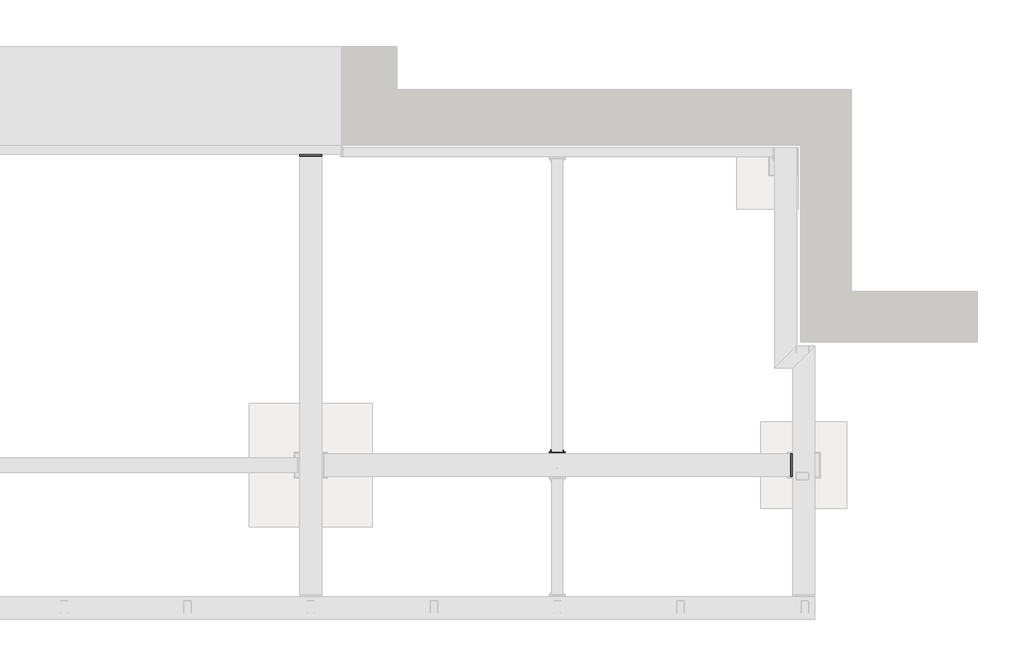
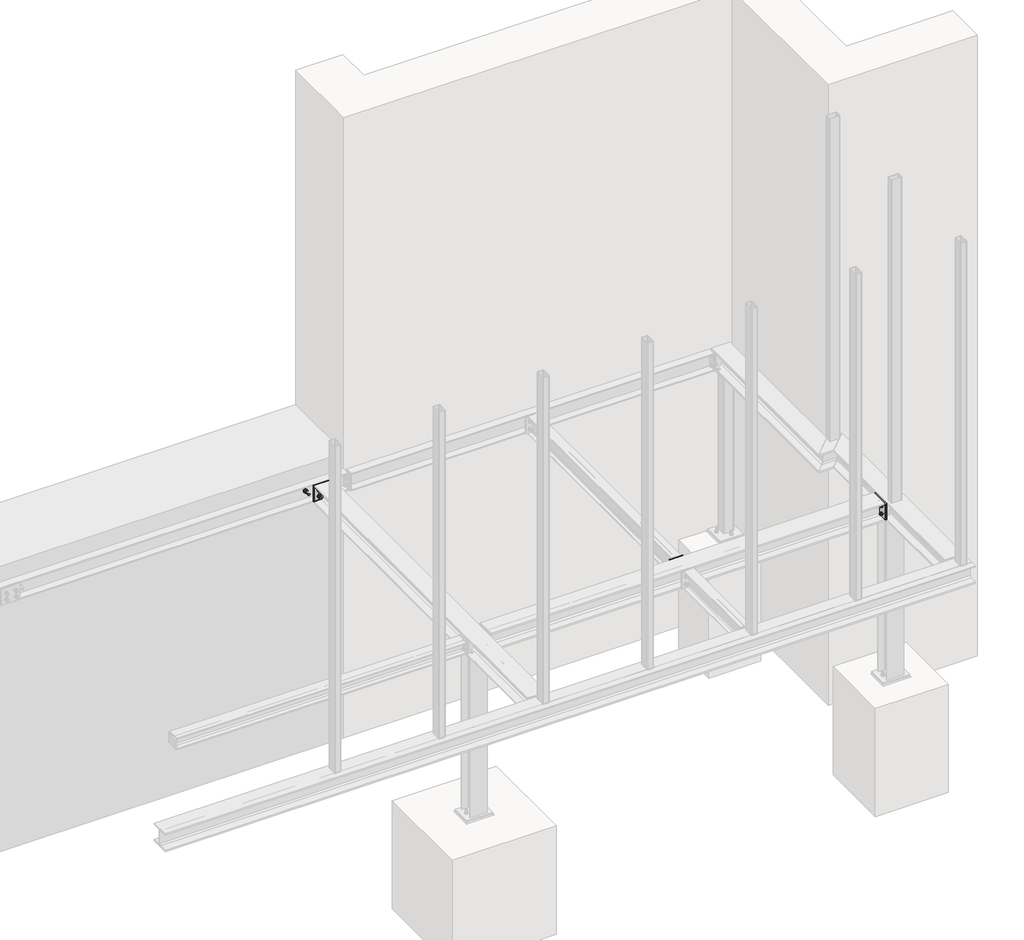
# One storey, part 14 of 31: 10 proxies.
"""IFC4 building model written with IfcOpenShell, lengths in millimetres."""

import ifcopenshell
import ifcopenshell.guid

model = None  # the IFC model being written
_history = None  # IfcOwnerHistory: only IFC2X3 demands one
_inside = {}  # id of a spatial element -> (the spatial element, [elements in it])
_under = {}  # id of a project, library or spatial element -> (it, [spatial elements below it])
_declared = {}  # id of a project -> (the project, [libraries it declares])
_typed = {}  # id of a type object -> (the type object, [elements of that type])
_made_of = {}  # id of a material, layer set ... -> (it, [elements and type objects made of it])


def new_model(schema):
    """Start an empty IFC model of exactly this schema.

    Asked for "IFC4X3", IfcOpenShell would pick the latest addendum, in which some entities
    have other attributes; the version numbers below select the first issue.
    IFC2X3 requires an IfcOwnerHistory on every rooted entity: one is made here for all.
    """
    global model, _history
    if schema == "IFC4X3":
        model = ifcopenshell.file(schema_version=(4, 3, 0, 0))
    else:
        model = ifcopenshell.file(schema=schema)
    _inside.clear()
    _under.clear()
    _declared.clear()
    _typed.clear()
    _made_of.clear()
    _history = None
    if model.schema == "IFC2X3":
        org = make("IfcOrganization", Name="unknown")
        user = make(
            "IfcPersonAndOrganization",
            ThePerson=make("IfcPerson", FamilyName="unknown"),
            TheOrganization=org,
        )
        app = make(
            "IfcApplication",
            ApplicationDeveloper=org,
            Version="unknown",
            ApplicationFullName="unknown",
            ApplicationIdentifier="unknown",
        )
        _history = make(
            "IfcOwnerHistory",
            OwningUser=user,
            OwningApplication=app,
            ChangeAction="ADDED",
            CreationDate=0,
        )
    return model


def make(cls, **values):
    """One entity of the class cls with the attributes given. An attribute that is None is left unset."""
    return model.create_entity(
        cls, **{name: value for name, value in values.items() if value is not None}
    )


def rooted(cls, **values):
    """An entity with a GlobalId (a new one), such as an element, a storey or a relation."""
    return make(cls, GlobalId=ifcopenshell.guid.new(), OwnerHistory=_history, **values)


def si_unit(unit_type, name, prefix=None):
    """IfcSIUnit, for example si_unit("LENGTHUNIT", "METRE", prefix="MILLI")."""
    return make("IfcSIUnit", UnitType=unit_type, Prefix=prefix, Name=name)


def assignment(units):
    """IfcUnitAssignment: the units of a project."""
    return None if units is None else make("IfcUnitAssignment", Units=units)


def point(xyz):
    """IfcCartesianPoint."""
    return None if xyz is None else make("IfcCartesianPoint", Coordinates=xyz)


def direction(xyz):
    """IfcDirection."""
    return None if xyz is None else make("IfcDirection", DirectionRatios=xyz)


def frame(location, z_axis=None, x_axis=None):
    """IfcAxis2Placement3D, a coordinate frame: its origin and axes. An axis left out is left unset."""
    return make(
        "IfcAxis2Placement3D",
        Location=point(location),
        Axis=direction(z_axis),
        RefDirection=direction(x_axis),
    )


def frame_2d(location, x_axis=None):
    """IfcAxis2Placement2D, a coordinate frame in the plane: its origin and x axis."""
    return make(
        "IfcAxis2Placement2D", Location=point(location), RefDirection=direction(x_axis)
    )


def origin():
    """The frame at (0, 0, 0) with its axes left unset."""
    return frame((0.0, 0.0, 0.0))


def place(relative_to, where):
    """IfcLocalPlacement: puts the frame where relative to a parent placement (None: the world)."""
    return make(
        "IfcLocalPlacement", PlacementRelTo=relative_to, RelativePlacement=where
    )


def context(
    kind, dimensions, precision=None, world=None, true_north=None, identifier=None
):
    """IfcGeometricRepresentationContext, for example the 3D "Model" context."""
    return make(
        "IfcGeometricRepresentationContext",
        ContextIdentifier=identifier,
        ContextType=kind,
        CoordinateSpaceDimension=dimensions,
        Precision=precision,
        WorldCoordinateSystem=world,
        TrueNorth=true_north,
    )


def project(units=None, contexts=None):
    """IfcProject with its units and contexts."""
    return rooted(
        "IfcProject",
        Name="project",
        RepresentationContexts=contexts,
        UnitsInContext=assignment(units),
    )


def spatial(cls, under=None, at=None, **own):
    """A site, building, storey or space (cls), placed at a placement, below another one or the project."""
    s = rooted(cls, ObjectPlacement=at, **own)
    if under is not None:
        _under.setdefault(under.id(), (under, []))[1].append(s)
    return s


def polyline(points):
    """IfcPolyline through the points."""
    return make("IfcPolyline", Points=[point(p) for p in points])


def circle_curve(where, radius):
    """IfcCircle in the frame where."""
    return make("IfcCircle", Position=where, Radius=radius)


def trimmed(basis, trim1, trim2, sense, master):
    """IfcTrimmedCurve: the piece of a basis curve between two trims."""
    return make(
        "IfcTrimmedCurve",
        BasisCurve=basis,
        Trim1=trim1,
        Trim2=trim2,
        SenseAgreement=sense,
        MasterRepresentation=master,
    )


def segment(curve, same_sense, transition):
    """IfcCompositeCurveSegment."""
    return make(
        "IfcCompositeCurveSegment",
        Transition=transition,
        SameSense=same_sense,
        ParentCurve=curve,
    )


def composite_curve(segments, self_intersect=None):
    """IfcCompositeCurve: segments joined end to end."""
    return make("IfcCompositeCurve", Segments=segments, SelfIntersect=self_intersect)


def outline(outer, holes=None, kind="AREA"):
    """IfcArbitraryClosedProfileDef: a profile drawn as a closed curve; with holes, ...WithVoids."""
    if holes is None:
        return make("IfcArbitraryClosedProfileDef", ProfileType=kind, OuterCurve=outer)
    return make(
        "IfcArbitraryProfileDefWithVoids",
        ProfileType=kind,
        OuterCurve=outer,
        InnerCurves=holes,
    )


def extrude(swept, where, along, depth):
    """IfcExtrudedAreaSolid: the profile swept, set in the frame where, extruded along a direction by depth."""
    return make(
        "IfcExtrudedAreaSolid",
        SweptArea=swept,
        Position=where,
        ExtrudedDirection=direction(along),
        Depth=depth,
    )


def shape(context_of_items, identifier, shape_type, items):
    """IfcShapeRepresentation: the items that make up one representation, for example the "Body"."""
    return make(
        "IfcShapeRepresentation",
        ContextOfItems=context_of_items,
        RepresentationIdentifier=identifier,
        RepresentationType=shape_type,
        Items=items,
    )


def made_of(thing, what):
    """Note that an element or type object is made of a material, layer set ...; save() writes the relation."""
    if what is not None:
        _made_of.setdefault(what.id(), (what, []))[1].append(thing)
    return thing


def element(
    cls,
    number,
    at=None,
    inside=None,
    cuts=None,
    type_object=None,
    material=None,
    context=None,
    identifier="Body",
    shape_type=None,
    held_by="IfcProductDefinitionShape",
    body=None,
    shapes=None,
    **own,
):
    """One element of the class cls, such as IfcWall. Its Tag is "e" and its number.

    at: its placement. inside: the storey or other place that contains it. cuts: it is an
    opening in that element (IfcRelVoidsElement). A single representation is given by context,
    identifier, shape_type and body (its items); several are given by shapes. held_by: the class
    of the entity that holds the representations. save() writes the other relations.
    """
    e = rooted(cls, Tag="e%d" % number, ObjectPlacement=at, **own)
    if body is not None:
        shapes = [shape(context, identifier, shape_type, body)]
    if shapes is not None:
        e.Representation = make(held_by, Representations=shapes)
    if inside is not None:
        _inside.setdefault(inside.id(), (inside, []))[1].append(e)
    if cuts is not None:
        rooted(
            "IfcRelVoidsElement", RelatingBuildingElement=cuts, RelatedOpeningElement=e
        )
    if type_object is not None:
        _typed.setdefault(type_object.id(), (type_object, []))[1].append(e)
    return made_of(e, material)


def aggregate(whole, parts):
    """IfcRelAggregates: a whole, such as a stair, and the parts it consists of."""
    return rooted("IfcRelAggregates", RelatingObject=whole, RelatedObjects=parts)


def save(model, path):
    """Write the relations noted so far, then the file.

    IfcRelAggregates (storeys below a building ...), IfcRelContainedInSpatialStructure (elements
    in a storey), IfcRelDefinesByType, IfcRelAssociatesMaterial and IfcRelDeclares: one each for
    every whole, place, type object, material and project.
    """
    for whole, parts in _under.values():
        aggregate(whole, parts)
    for where, things in _inside.values():
        rooted(
            "IfcRelContainedInSpatialStructure",
            RelatedElements=things,
            RelatingStructure=where,
        )
    for kind, things in _typed.values():
        rooted("IfcRelDefinesByType", RelatedObjects=things, RelatingType=kind)
    for what, things in _made_of.values():
        rooted("IfcRelAssociatesMaterial", RelatedObjects=things, RelatingMaterial=what)
    for by, libraries in _declared.values():
        rooted("IfcRelDeclares", RelatingContext=by, RelatedDefinitions=libraries)
    model.write(path)


model = new_model("IFC4")

# Units and contexts
model_context = context("Model", 3, world=origin())
ifc_project = project(units=[si_unit("LENGTHUNIT", "METRE", prefix="MILLI")], contexts=[model_context])

# Site, building, storey
site = spatial("IfcSite", under=ifc_project)
building = spatial("IfcBuilding", under=site)
storey = spatial("IfcBuildingStorey", under=building, Name="Základy", Elevation=-1200.0)

# Proxies
placement = place(None, origin())
element("IfcBuildingElementProxy", 1, Name="PLECH", ObjectType="PLECH", at=placement, inside=storey, context=model_context, shape_type="SweptSolid", body=[
    extrude(outline(polyline([(11960.0, 3775.0), (12140.0, 3775.0), (12140.0, 3767.0), (11960.0, 3767.0), (11960.0, 3775.0)])), frame((0.0, 0.0, -316.0), z_axis=(0.0, 0.0, 1.0), x_axis=(1.0, 0.0, 0.0)), (0.0, 0.0, 1.0), 132.0),
])
element("IfcBuildingElementProxy", 2, Name="PLECH", ObjectType="PLECH", at=placement, inside=storey, context=model_context, shape_type="SweptSolid", body=[
    extrude(outline(composite_curve([segment(polyline([(3785.0, -170.5), (3834.5, -170.5)]), True, "CONTINUOUS"), segment(trimmed(circle_curve(frame_2d((3854.5, -170.5)), 20.0), [point((3834.5, -170.5))], [point((3854.5, -190.5))], True, "CARTESIAN"), True, "CONTINUOUS"), segment(polyline([(3854.5, -190.5), (3854.5, -309.5)]), True, "CONTINUOUS"), segment(trimmed(circle_curve(frame_2d((3854.5, -329.5)), 20.0), [point((3854.5, -309.5))], [point((3834.5, -329.5))], True, "CARTESIAN"), True, "CONTINUOUS"), segment(polyline([(3834.5, -329.5), (3785.0, -329.5), (3785.0, -170.5)]), True, "CONTINUOUS")], self_intersect=False)), frame((12046.0, 0.0, 0.0), z_axis=(1.0, 0.0, 0.0), x_axis=(0.0, 1.0, 0.0)), (0.0, 0.0, 1.0), 8.0),
])
element("IfcBuildingElementProxy", 3, Name="PLECH", ObjectType="PLECH", at=placement, inside=storey, context=model_context, shape_type="SweptSolid", body=[
    extrude(outline(polyline([(11960.0, 3785.0), (12140.0, 3785.0), (12140.0, 3775.0), (11960.0, 3775.0), (11960.0, 3785.0)])), frame((0.0, 0.0, -332.0), z_axis=(0.0, 0.0, 1.0), x_axis=(1.0, 0.0, 0.0)), (0.0, 0.0, 1.0), 164.0),
])
element("IfcBuildingElementProxy", 4, Name="PLECH", ObjectType="PLECH", at=placement, inside=storey, context=model_context, shape_type="SweptSolid", body=[
    extrude(outline(polyline([(15950.0, 1170.0), (15950.0, 1350.0), (15960.0, 1350.0), (15960.0, 1170.0), (15950.0, 1170.0)])), frame((0.0, 0.0, -332.0), z_axis=(0.0, 0.0, 1.0), x_axis=(1.0, 0.0, 0.0)), (0.0, 0.0, 1.0), 164.0),
])
element("IfcBuildingElementProxy", 5, Name="PLECH", ObjectType="PLECH", at=placement, inside=storey, context=model_context, shape_type="SweptSolid", body=[
    extrude(outline(polyline([(15940.0, 1170.0), (15940.0, 1350.0), (15950.0, 1350.0), (15950.0, 1170.0), (15940.0, 1170.0)])), frame((0.0, 0.0, -326.0), z_axis=(0.0, 0.0, 1.0), x_axis=(1.0, 0.0, 0.0)), (0.0, 0.0, 1.0), 152.0),
])
element("IfcBuildingElementProxy", 6, Name="PLECH", ObjectType="PLECH", at=placement, inside=storey, context=model_context, shape_type="SweptSolid", body=[
    extrude(outline(polyline([(13985.0, 1370.0), (14115.0, 1370.0), (14115.0, 1360.0), (13985.0, 1360.0), (13985.0, 1370.0)])), frame((0.0, 0.0, -332.0), z_axis=(0.0, 0.0, 1.0), x_axis=(1.0, 0.0, 0.0)), (0.0, 0.0, 1.0), 164.0),
])
element("IfcBuildingElementProxy", 7, Name="Bolt assembly", ObjectType="Bolt assembly", at=placement, inside=storey, context=model_context, shape_type="SweptSolid", body=[
    extrude(outline(composite_curve([segment(trimmed(circle_curve(frame_2d((-220.0, 12005.0)), 9.0), [point((-220.0, 12014.0))], [point((-220.0, 11996.0))], False, "CARTESIAN"), True, "CONTINUOUS"), segment(trimmed(circle_curve(frame_2d((-220.0, 12005.0)), 9.0), [point((-220.0, 11996.0))], [point((-220.0, 12014.0))], False, "CARTESIAN"), True, "CONTINUOUS")], self_intersect=False)), frame((0.0, 3774.9, 0.0), z_axis=(0.0, 1.0, 0.0), x_axis=(0.0, 0.0, 1.0)), (0.0, 0.0, 1.0), 10.0),
    extrude(outline(polyline([(-220.0, 12018.8564065), (-208.0, 12011.9282032), (-208.0, 11998.0717968), (-220.0, 11991.1435935), (-232.0, 11998.0717968), (-232.0, 12011.9282032), (-220.0, 12018.8564065)])), frame((0.0, 3788.0, 0.0), z_axis=(0.0, 1.0, 0.0), x_axis=(0.0, 0.0, 1.0)), (0.0, 0.0, 1.0), 10.0),
    extrude(outline(composite_curve([segment(trimmed(circle_curve(frame_2d((-220.0, 12005.0)), 8.0), [point((-220.0, 12013.0))], [point((-220.0, 11997.0))], False, "CARTESIAN"), True, "CONTINUOUS"), segment(trimmed(circle_curve(frame_2d((-220.0, 12005.0)), 8.0), [point((-220.0, 11997.0))], [point((-220.0, 12013.0))], False, "CARTESIAN"), True, "CONTINUOUS")], self_intersect=False)), frame((0.0, 3738.0, 0.0), z_axis=(0.0, 1.0, 0.0), x_axis=(0.0, 0.0, 1.0)), (0.0, 0.0, 1.0), 50.0),
    extrude(outline(composite_curve([segment(trimmed(circle_curve(frame_2d((-220.0, 12005.0)), 15.0), [point((-220.0, 12020.0))], [point((-220.0, 11990.0))], False, "CARTESIAN"), True, "CONTINUOUS"), segment(trimmed(circle_curve(frame_2d((-220.0, 12005.0)), 15.0), [point((-220.0, 11990.0))], [point((-220.0, 12020.0))], False, "CARTESIAN"), True, "CONTINUOUS")], self_intersect=False)), frame((0.0, 3785.0, 0.0), z_axis=(0.0, 1.0, 0.0), x_axis=(0.0, 0.0, 1.0)), (0.0, 0.0, 1.0), 3.0),
    extrude(outline(composite_curve([segment(trimmed(circle_curve(frame_2d((-220.0, 12005.0)), 15.0), [point((-220.0, 12020.0))], [point((-220.0, 11990.0))], False, "CARTESIAN"), True, "CONTINUOUS"), segment(trimmed(circle_curve(frame_2d((-220.0, 12005.0)), 15.0), [point((-220.0, 11990.0))], [point((-220.0, 12020.0))], False, "CARTESIAN"), True, "CONTINUOUS")], self_intersect=False)), frame((0.0, 3764.0, 0.0), z_axis=(0.0, 1.0, 0.0), x_axis=(0.0, 0.0, 1.0)), (0.0, 0.0, 1.0), 3.0),
    extrude(outline(polyline([(-220.0, 12020.4441197), (-206.625, 12012.7220599), (-206.625, 11997.2779401), (-220.0, 11989.5558803), (-233.375, 11997.2779401), (-233.375, 12012.7220599), (-220.0, 12020.4441197)])), frame((0.0, 3751.0, 0.0), z_axis=(0.0, 1.0, 0.0), x_axis=(0.0, 0.0, 1.0)), (0.0, 0.0, 1.0), 13.0),
    extrude(outline(composite_curve([segment(trimmed(circle_curve(frame_2d((-220.0, 12005.0)), 9.0), [point((-220.0, 12014.0))], [point((-220.0, 11996.0))], False, "CARTESIAN"), True, "CONTINUOUS"), segment(trimmed(circle_curve(frame_2d((-220.0, 12005.0)), 9.0), [point((-220.0, 11996.0))], [point((-220.0, 12014.0))], False, "CARTESIAN"), True, "CONTINUOUS")], self_intersect=False)), frame((0.0, 3767.0, 0.0), z_axis=(0.0, 1.0, 0.0), x_axis=(0.0, 0.0, 1.0)), (0.0, 0.0, 1.0), 8.1),
    extrude(outline(composite_curve([segment(trimmed(circle_curve(frame_2d((-220.0, 12095.0)), 9.0), [point((-220.0, 12104.0))], [point((-220.0, 12086.0))], False, "CARTESIAN"), True, "CONTINUOUS"), segment(trimmed(circle_curve(frame_2d((-220.0, 12095.0)), 9.0), [point((-220.0, 12086.0))], [point((-220.0, 12104.0))], False, "CARTESIAN"), True, "CONTINUOUS")], self_intersect=False)), frame((0.0, 3774.9, 0.0), z_axis=(0.0, 1.0, 0.0), x_axis=(0.0, 0.0, 1.0)), (0.0, 0.0, 1.0), 10.0),
    extrude(outline(polyline([(-220.0, 12108.8564065), (-208.0, 12101.9282032), (-208.0, 12088.0717968), (-220.0, 12081.1435935), (-232.0, 12088.0717968), (-232.0, 12101.9282032), (-220.0, 12108.8564065)])), frame((0.0, 3788.0, 0.0), z_axis=(0.0, 1.0, 0.0), x_axis=(0.0, 0.0, 1.0)), (0.0, 0.0, 1.0), 10.0),
    extrude(outline(composite_curve([segment(trimmed(circle_curve(frame_2d((-220.0, 12095.0)), 8.0), [point((-220.0, 12103.0))], [point((-220.0, 12087.0))], False, "CARTESIAN"), True, "CONTINUOUS"), segment(trimmed(circle_curve(frame_2d((-220.0, 12095.0)), 8.0), [point((-220.0, 12087.0))], [point((-220.0, 12103.0))], False, "CARTESIAN"), True, "CONTINUOUS")], self_intersect=False)), frame((0.0, 3738.0, 0.0), z_axis=(0.0, 1.0, 0.0), x_axis=(0.0, 0.0, 1.0)), (0.0, 0.0, 1.0), 50.0),
    extrude(outline(composite_curve([segment(trimmed(circle_curve(frame_2d((-220.0, 12095.0)), 15.0), [point((-220.0, 12110.0))], [point((-220.0, 12080.0))], False, "CARTESIAN"), True, "CONTINUOUS"), segment(trimmed(circle_curve(frame_2d((-220.0, 12095.0)), 15.0), [point((-220.0, 12080.0))], [point((-220.0, 12110.0))], False, "CARTESIAN"), True, "CONTINUOUS")], self_intersect=False)), frame((0.0, 3785.0, 0.0), z_axis=(0.0, 1.0, 0.0), x_axis=(0.0, 0.0, 1.0)), (0.0, 0.0, 1.0), 3.0),
    extrude(outline(composite_curve([segment(trimmed(circle_curve(frame_2d((-220.0, 12095.0)), 15.0), [point((-220.0, 12110.0))], [point((-220.0, 12080.0))], False, "CARTESIAN"), True, "CONTINUOUS"), segment(trimmed(circle_curve(frame_2d((-220.0, 12095.0)), 15.0), [point((-220.0, 12080.0))], [point((-220.0, 12110.0))], False, "CARTESIAN"), True, "CONTINUOUS")], self_intersect=False)), frame((0.0, 3764.0, 0.0), z_axis=(0.0, 1.0, 0.0), x_axis=(0.0, 0.0, 1.0)), (0.0, 0.0, 1.0), 3.0),
    extrude(outline(polyline([(-220.0, 12110.4441197), (-206.625, 12102.7220599), (-206.625, 12087.2779401), (-220.0, 12079.5558803), (-233.375, 12087.2779401), (-233.375, 12102.7220599), (-220.0, 12110.4441197)])), frame((0.0, 3751.0, 0.0), z_axis=(0.0, 1.0, 0.0), x_axis=(0.0, 0.0, 1.0)), (0.0, 0.0, 1.0), 13.0),
    extrude(outline(composite_curve([segment(trimmed(circle_curve(frame_2d((-220.0, 12095.0)), 9.0), [point((-220.0, 12104.0))], [point((-220.0, 12086.0))], False, "CARTESIAN"), True, "CONTINUOUS"), segment(trimmed(circle_curve(frame_2d((-220.0, 12095.0)), 9.0), [point((-220.0, 12086.0))], [point((-220.0, 12104.0))], False, "CARTESIAN"), True, "CONTINUOUS")], self_intersect=False)), frame((0.0, 3767.0, 0.0), z_axis=(0.0, 1.0, 0.0), x_axis=(0.0, 0.0, 1.0)), (0.0, 0.0, 1.0), 8.1),
    extrude(outline(composite_curve([segment(trimmed(circle_curve(frame_2d((-280.0, 12005.0)), 9.0), [point((-280.0, 12014.0))], [point((-280.0, 11996.0))], False, "CARTESIAN"), True, "CONTINUOUS"), segment(trimmed(circle_curve(frame_2d((-280.0, 12005.0)), 9.0), [point((-280.0, 11996.0))], [point((-280.0, 12014.0))], False, "CARTESIAN"), True, "CONTINUOUS")], self_intersect=False)), frame((0.0, 3774.9, 0.0), z_axis=(0.0, 1.0, 0.0), x_axis=(0.0, 0.0, 1.0)), (0.0, 0.0, 1.0), 10.0),
    extrude(outline(polyline([(-280.0, 12018.8564065), (-268.0, 12011.9282032), (-268.0, 11998.0717968), (-280.0, 11991.1435935), (-292.0, 11998.0717968), (-292.0, 12011.9282032), (-280.0, 12018.8564065)])), frame((0.0, 3788.0, 0.0), z_axis=(0.0, 1.0, 0.0), x_axis=(0.0, 0.0, 1.0)), (0.0, 0.0, 1.0), 10.0),
    extrude(outline(composite_curve([segment(trimmed(circle_curve(frame_2d((-280.0, 12005.0)), 8.0), [point((-280.0, 12013.0))], [point((-280.0, 11997.0))], False, "CARTESIAN"), True, "CONTINUOUS"), segment(trimmed(circle_curve(frame_2d((-280.0, 12005.0)), 8.0), [point((-280.0, 11997.0))], [point((-280.0, 12013.0))], False, "CARTESIAN"), True, "CONTINUOUS")], self_intersect=False)), frame((0.0, 3738.0, 0.0), z_axis=(0.0, 1.0, 0.0), x_axis=(0.0, 0.0, 1.0)), (0.0, 0.0, 1.0), 50.0),
    extrude(outline(composite_curve([segment(trimmed(circle_curve(frame_2d((-280.0, 12005.0)), 15.0), [point((-280.0, 12020.0))], [point((-280.0, 11990.0))], False, "CARTESIAN"), True, "CONTINUOUS"), segment(trimmed(circle_curve(frame_2d((-280.0, 12005.0)), 15.0), [point((-280.0, 11990.0))], [point((-280.0, 12020.0))], False, "CARTESIAN"), True, "CONTINUOUS")], self_intersect=False)), frame((0.0, 3785.0, 0.0), z_axis=(0.0, 1.0, 0.0), x_axis=(0.0, 0.0, 1.0)), (0.0, 0.0, 1.0), 3.0),
    extrude(outline(composite_curve([segment(trimmed(circle_curve(frame_2d((-280.0, 12005.0)), 15.0), [point((-280.0, 12020.0))], [point((-280.0, 11990.0))], False, "CARTESIAN"), True, "CONTINUOUS"), segment(trimmed(circle_curve(frame_2d((-280.0, 12005.0)), 15.0), [point((-280.0, 11990.0))], [point((-280.0, 12020.0))], False, "CARTESIAN"), True, "CONTINUOUS")], self_intersect=False)), frame((0.0, 3764.0, 0.0), z_axis=(0.0, 1.0, 0.0), x_axis=(0.0, 0.0, 1.0)), (0.0, 0.0, 1.0), 3.0),
    extrude(outline(polyline([(-280.0, 12020.4441197), (-266.625, 12012.7220599), (-266.625, 11997.2779401), (-280.0, 11989.5558803), (-293.375, 11997.2779401), (-293.375, 12012.7220599), (-280.0, 12020.4441197)])), frame((0.0, 3751.0, 0.0), z_axis=(0.0, 1.0, 0.0), x_axis=(0.0, 0.0, 1.0)), (0.0, 0.0, 1.0), 13.0),
    extrude(outline(composite_curve([segment(trimmed(circle_curve(frame_2d((-280.0, 12005.0)), 9.0), [point((-280.0, 12014.0))], [point((-280.0, 11996.0))], False, "CARTESIAN"), True, "CONTINUOUS"), segment(trimmed(circle_curve(frame_2d((-280.0, 12005.0)), 9.0), [point((-280.0, 11996.0))], [point((-280.0, 12014.0))], False, "CARTESIAN"), True, "CONTINUOUS")], self_intersect=False)), frame((0.0, 3767.0, 0.0), z_axis=(0.0, 1.0, 0.0), x_axis=(0.0, 0.0, 1.0)), (0.0, 0.0, 1.0), 8.1),
    extrude(outline(composite_curve([segment(trimmed(circle_curve(frame_2d((-280.0, 12095.0)), 9.0), [point((-280.0, 12104.0))], [point((-280.0, 12086.0))], False, "CARTESIAN"), True, "CONTINUOUS"), segment(trimmed(circle_curve(frame_2d((-280.0, 12095.0)), 9.0), [point((-280.0, 12086.0))], [point((-280.0, 12104.0))], False, "CARTESIAN"), True, "CONTINUOUS")], self_intersect=False)), frame((0.0, 3774.9, 0.0), z_axis=(0.0, 1.0, 0.0), x_axis=(0.0, 0.0, 1.0)), (0.0, 0.0, 1.0), 10.0),
    extrude(outline(polyline([(-280.0, 12108.8564065), (-268.0, 12101.9282032), (-268.0, 12088.0717968), (-280.0, 12081.1435935), (-292.0, 12088.0717968), (-292.0, 12101.9282032), (-280.0, 12108.8564065)])), frame((0.0, 3788.0, 0.0), z_axis=(0.0, 1.0, 0.0), x_axis=(0.0, 0.0, 1.0)), (0.0, 0.0, 1.0), 10.0),
    extrude(outline(composite_curve([segment(trimmed(circle_curve(frame_2d((-280.0, 12095.0)), 8.0), [point((-280.0, 12103.0))], [point((-280.0, 12087.0))], False, "CARTESIAN"), True, "CONTINUOUS"), segment(trimmed(circle_curve(frame_2d((-280.0, 12095.0)), 8.0), [point((-280.0, 12087.0))], [point((-280.0, 12103.0))], False, "CARTESIAN"), True, "CONTINUOUS")], self_intersect=False)), frame((0.0, 3738.0, 0.0), z_axis=(0.0, 1.0, 0.0), x_axis=(0.0, 0.0, 1.0)), (0.0, 0.0, 1.0), 50.0),
    extrude(outline(composite_curve([segment(trimmed(circle_curve(frame_2d((-280.0, 12095.0)), 15.0), [point((-280.0, 12110.0))], [point((-280.0, 12080.0))], False, "CARTESIAN"), True, "CONTINUOUS"), segment(trimmed(circle_curve(frame_2d((-280.0, 12095.0)), 15.0), [point((-280.0, 12080.0))], [point((-280.0, 12110.0))], False, "CARTESIAN"), True, "CONTINUOUS")], self_intersect=False)), frame((0.0, 3785.0, 0.0), z_axis=(0.0, 1.0, 0.0), x_axis=(0.0, 0.0, 1.0)), (0.0, 0.0, 1.0), 3.0),
    extrude(outline(composite_curve([segment(trimmed(circle_curve(frame_2d((-280.0, 12095.0)), 15.0), [point((-280.0, 12110.0))], [point((-280.0, 12080.0))], False, "CARTESIAN"), True, "CONTINUOUS"), segment(trimmed(circle_curve(frame_2d((-280.0, 12095.0)), 15.0), [point((-280.0, 12080.0))], [point((-280.0, 12110.0))], False, "CARTESIAN"), True, "CONTINUOUS")], self_intersect=False)), frame((0.0, 3764.0, 0.0), z_axis=(0.0, 1.0, 0.0), x_axis=(0.0, 0.0, 1.0)), (0.0, 0.0, 1.0), 3.0),
    extrude(outline(polyline([(-280.0, 12110.4441197), (-266.625, 12102.7220599), (-266.625, 12087.2779401), (-280.0, 12079.5558803), (-293.375, 12087.2779401), (-293.375, 12102.7220599), (-280.0, 12110.4441197)])), frame((0.0, 3751.0, 0.0), z_axis=(0.0, 1.0, 0.0), x_axis=(0.0, 0.0, 1.0)), (0.0, 0.0, 1.0), 13.0),
    extrude(outline(composite_curve([segment(trimmed(circle_curve(frame_2d((-280.0, 12095.0)), 9.0), [point((-280.0, 12104.0))], [point((-280.0, 12086.0))], False, "CARTESIAN"), True, "CONTINUOUS"), segment(trimmed(circle_curve(frame_2d((-280.0, 12095.0)), 9.0), [point((-280.0, 12086.0))], [point((-280.0, 12104.0))], False, "CARTESIAN"), True, "CONTINUOUS")], self_intersect=False)), frame((0.0, 3767.0, 0.0), z_axis=(0.0, 1.0, 0.0), x_axis=(0.0, 0.0, 1.0)), (0.0, 0.0, 1.0), 8.1),
])
element("IfcBuildingElementProxy", 8, Name="Bolt assembly", ObjectType="Bolt assembly", at=placement, inside=storey, context=model_context, shape_type="SweptSolid", body=[
    extrude(outline(polyline([(-250.0, 11934.8149546), (-241.5, 11929.9074773), (-241.5, 11920.0925227), (-250.0, 11915.1850454), (-258.5, 11920.0925227), (-258.5, 11929.9074773), (-250.0, 11934.8149546)])), frame((0.0, 3860.0, 0.0), z_axis=(0.0, 1.0, 0.0), x_axis=(0.0, 0.0, 1.0)), (0.0, 0.0, 1.0), 168.0),
    extrude(outline(composite_curve([segment(trimmed(circle_curve(frame_2d((-250.0, 11925.0)), 10.0), [point((-250.0, 11935.0))], [point((-250.0, 11915.0))], False, "CARTESIAN"), True, "CONTINUOUS"), segment(trimmed(circle_curve(frame_2d((-250.0, 11925.0)), 10.0), [point((-250.0, 11915.0))], [point((-250.0, 11935.0))], False, "CARTESIAN"), True, "CONTINUOUS")], self_intersect=False)), frame((0.0, 3788.0, 0.0), z_axis=(0.0, 1.0, 0.0), x_axis=(0.0, 0.0, 1.0)), (0.0, 0.0, 1.0), 72.0),
    extrude(outline(composite_curve([segment(trimmed(circle_curve(frame_2d((-250.0, 11925.0)), 18.5), [point((-250.0, 11943.5))], [point((-250.0, 11906.5))], False, "CARTESIAN"), True, "CONTINUOUS"), segment(trimmed(circle_curve(frame_2d((-250.0, 11925.0)), 18.5), [point((-250.0, 11906.5))], [point((-250.0, 11943.5))], False, "CARTESIAN"), True, "CONTINUOUS")], self_intersect=False)), frame((0.0, 3851.5, 0.0), z_axis=(0.0, 1.0, 0.0), x_axis=(0.0, 0.0, 1.0)), (0.0, 0.0, 1.0), 3.0),
    extrude(outline(polyline([(-250.0, 11942.3205081), (-235.0, 11933.660254), (-235.0, 11916.339746), (-250.0, 11907.6794919), (-265.0, 11916.339746), (-265.0, 11933.660254), (-250.0, 11942.3205081)])), frame((0.0, 3835.5, 0.0), z_axis=(0.0, 1.0, 0.0), x_axis=(0.0, 0.0, 1.0)), (0.0, 0.0, 1.0), 16.0),
    extrude(outline(composite_curve([segment(trimmed(circle_curve(frame_2d((-250.0, 11925.0)), 11.0), [point((-250.0, 11936.0))], [point((-250.0, 11914.0))], False, "CARTESIAN"), True, "CONTINUOUS"), segment(trimmed(circle_curve(frame_2d((-250.0, 11925.0)), 11.0), [point((-250.0, 11914.0))], [point((-250.0, 11936.0))], False, "CARTESIAN"), True, "CONTINUOUS")], self_intersect=False)), frame((0.0, 3854.4, 0.0), z_axis=(0.0, 1.0, 0.0), x_axis=(0.0, 0.0, 1.0)), (0.0, 0.0, 1.0), 5.6),
    extrude(outline(polyline([(-250.0, 12184.8149546), (-241.5, 12179.9074773), (-241.5, 12170.0925227), (-250.0, 12165.1850454), (-258.5, 12170.0925227), (-258.5, 12179.9074773), (-250.0, 12184.8149546)])), frame((0.0, 3860.0, 0.0), z_axis=(0.0, 1.0, 0.0), x_axis=(0.0, 0.0, 1.0)), (0.0, 0.0, 1.0), 168.0),
    extrude(outline(composite_curve([segment(trimmed(circle_curve(frame_2d((-250.0, 12175.0)), 10.0), [point((-250.0, 12185.0))], [point((-250.0, 12165.0))], False, "CARTESIAN"), True, "CONTINUOUS"), segment(trimmed(circle_curve(frame_2d((-250.0, 12175.0)), 10.0), [point((-250.0, 12165.0))], [point((-250.0, 12185.0))], False, "CARTESIAN"), True, "CONTINUOUS")], self_intersect=False)), frame((0.0, 3788.0, 0.0), z_axis=(0.0, 1.0, 0.0), x_axis=(0.0, 0.0, 1.0)), (0.0, 0.0, 1.0), 72.0),
    extrude(outline(composite_curve([segment(trimmed(circle_curve(frame_2d((-250.0, 12175.0)), 18.5), [point((-250.0, 12193.5))], [point((-250.0, 12156.5))], False, "CARTESIAN"), True, "CONTINUOUS"), segment(trimmed(circle_curve(frame_2d((-250.0, 12175.0)), 18.5), [point((-250.0, 12156.5))], [point((-250.0, 12193.5))], False, "CARTESIAN"), True, "CONTINUOUS")], self_intersect=False)), frame((0.0, 3851.5, 0.0), z_axis=(0.0, 1.0, 0.0), x_axis=(0.0, 0.0, 1.0)), (0.0, 0.0, 1.0), 3.0),
    extrude(outline(polyline([(-250.0, 12192.3205081), (-235.0, 12183.660254), (-235.0, 12166.339746), (-250.0, 12157.6794919), (-265.0, 12166.339746), (-265.0, 12183.660254), (-250.0, 12192.3205081)])), frame((0.0, 3835.5, 0.0), z_axis=(0.0, 1.0, 0.0), x_axis=(0.0, 0.0, 1.0)), (0.0, 0.0, 1.0), 16.0),
    extrude(outline(composite_curve([segment(trimmed(circle_curve(frame_2d((-250.0, 12175.0)), 11.0), [point((-250.0, 12186.0))], [point((-250.0, 12164.0))], False, "CARTESIAN"), True, "CONTINUOUS"), segment(trimmed(circle_curve(frame_2d((-250.0, 12175.0)), 11.0), [point((-250.0, 12164.0))], [point((-250.0, 12186.0))], False, "CARTESIAN"), True, "CONTINUOUS")], self_intersect=False)), frame((0.0, 3854.4, 0.0), z_axis=(0.0, 1.0, 0.0), x_axis=(0.0, 0.0, 1.0)), (0.0, 0.0, 1.0), 5.6),
])
element("IfcBuildingElementProxy", 9, Name="Bolt assembly", ObjectType="Bolt assembly", at=placement, inside=storey, context=model_context, shape_type="SweptSolid", body=[
    extrude(outline(composite_curve([segment(trimmed(circle_curve(frame_2d((1215.0, -210.0)), 8.5), [point((1215.0, -218.5))], [point((1215.0, -201.5))], False, "CARTESIAN"), True, "CONTINUOUS"), segment(trimmed(circle_curve(frame_2d((1215.0, -210.0)), 8.5), [point((1215.0, -201.5))], [point((1215.0, -218.5))], False, "CARTESIAN"), True, "CONTINUOUS")], self_intersect=False)), frame((15949.9, 0.0, 0.0), z_axis=(1.0, 0.0, 0.0), x_axis=(0.0, 1.0, 0.0)), (0.0, 0.0, 1.0), 10.0),
    extrude(outline(polyline([(1215.0, -223.8564065), (1203.0, -216.9282032), (1203.0, -203.0717968), (1215.0, -196.1435935), (1227.0, -203.0717968), (1227.0, -216.9282032), (1215.0, -223.8564065)])), frame((15963.0, 0.0, 0.0), z_axis=(1.0, 0.0, 0.0), x_axis=(0.0, 1.0, 0.0)), (0.0, 0.0, 1.0), 10.0),
    extrude(outline(composite_curve([segment(trimmed(circle_curve(frame_2d((1215.0, -210.0)), 8.0), [point((1215.0, -218.0))], [point((1215.0, -202.0))], False, "CARTESIAN"), True, "CONTINUOUS"), segment(trimmed(circle_curve(frame_2d((1215.0, -210.0)), 8.0), [point((1215.0, -202.0))], [point((1215.0, -218.0))], False, "CARTESIAN"), True, "CONTINUOUS")], self_intersect=False)), frame((15918.0, 0.0, 0.0), z_axis=(1.0, 0.0, 0.0), x_axis=(0.0, 1.0, 0.0)), (0.0, 0.0, 1.0), 45.0),
    extrude(outline(composite_curve([segment(trimmed(circle_curve(frame_2d((1215.0, -210.0)), 15.0), [point((1215.0, -225.0))], [point((1215.0, -195.0))], False, "CARTESIAN"), True, "CONTINUOUS"), segment(trimmed(circle_curve(frame_2d((1215.0, -210.0)), 15.0), [point((1215.0, -195.0))], [point((1215.0, -225.0))], False, "CARTESIAN"), True, "CONTINUOUS")], self_intersect=False)), frame((15960.0, 0.0, 0.0), z_axis=(1.0, 0.0, 0.0), x_axis=(0.0, 1.0, 0.0)), (0.0, 0.0, 1.0), 3.0),
    extrude(outline(composite_curve([segment(trimmed(circle_curve(frame_2d((1215.0, -210.0)), 15.0), [point((1215.0, -225.0))], [point((1215.0, -195.0))], False, "CARTESIAN"), True, "CONTINUOUS"), segment(trimmed(circle_curve(frame_2d((1215.0, -210.0)), 15.0), [point((1215.0, -195.0))], [point((1215.0, -225.0))], False, "CARTESIAN"), True, "CONTINUOUS")], self_intersect=False)), frame((15937.0, 0.0, 0.0), z_axis=(1.0, 0.0, 0.0), x_axis=(0.0, 1.0, 0.0)), (0.0, 0.0, 1.0), 3.0),
    extrude(outline(polyline([(1215.0, -225.4441197), (1201.625, -217.7220599), (1201.625, -202.2779401), (1215.0, -194.5558803), (1228.375, -202.2779401), (1228.375, -217.7220599), (1215.0, -225.4441197)])), frame((15924.0, 0.0, 0.0), z_axis=(1.0, 0.0, 0.0), x_axis=(0.0, 1.0, 0.0)), (0.0, 0.0, 1.0), 13.0),
    extrude(outline(composite_curve([segment(trimmed(circle_curve(frame_2d((1215.0, -210.0)), 8.5), [point((1215.0, -218.5))], [point((1215.0, -201.5))], False, "CARTESIAN"), True, "CONTINUOUS"), segment(trimmed(circle_curve(frame_2d((1215.0, -210.0)), 8.5), [point((1215.0, -201.5))], [point((1215.0, -218.5))], False, "CARTESIAN"), True, "CONTINUOUS")], self_intersect=False)), frame((15940.0, 0.0, 0.0), z_axis=(1.0, 0.0, 0.0), x_axis=(0.0, 1.0, 0.0)), (0.0, 0.0, 1.0), 10.1),
    extrude(outline(composite_curve([segment(trimmed(circle_curve(frame_2d((1215.0, -290.0)), 8.5), [point((1215.0, -298.5))], [point((1215.0, -281.5))], False, "CARTESIAN"), True, "CONTINUOUS"), segment(trimmed(circle_curve(frame_2d((1215.0, -290.0)), 8.5), [point((1215.0, -281.5))], [point((1215.0, -298.5))], False, "CARTESIAN"), True, "CONTINUOUS")], self_intersect=False)), frame((15949.9, 0.0, 0.0), z_axis=(1.0, 0.0, 0.0), x_axis=(0.0, 1.0, 0.0)), (0.0, 0.0, 1.0), 10.0),
    extrude(outline(polyline([(1215.0, -303.8564065), (1203.0, -296.9282032), (1203.0, -283.0717968), (1215.0, -276.1435935), (1227.0, -283.0717968), (1227.0, -296.9282032), (1215.0, -303.8564065)])), frame((15963.0, 0.0, 0.0), z_axis=(1.0, 0.0, 0.0), x_axis=(0.0, 1.0, 0.0)), (0.0, 0.0, 1.0), 10.0),
    extrude(outline(composite_curve([segment(trimmed(circle_curve(frame_2d((1215.0, -290.0)), 8.0), [point((1215.0, -298.0))], [point((1215.0, -282.0))], False, "CARTESIAN"), True, "CONTINUOUS"), segment(trimmed(circle_curve(frame_2d((1215.0, -290.0)), 8.0), [point((1215.0, -282.0))], [point((1215.0, -298.0))], False, "CARTESIAN"), True, "CONTINUOUS")], self_intersect=False)), frame((15918.0, 0.0, 0.0), z_axis=(1.0, 0.0, 0.0), x_axis=(0.0, 1.0, 0.0)), (0.0, 0.0, 1.0), 45.0),
    extrude(outline(composite_curve([segment(trimmed(circle_curve(frame_2d((1215.0, -290.0)), 15.0), [point((1215.0, -305.0))], [point((1215.0, -275.0))], False, "CARTESIAN"), True, "CONTINUOUS"), segment(trimmed(circle_curve(frame_2d((1215.0, -290.0)), 15.0), [point((1215.0, -275.0))], [point((1215.0, -305.0))], False, "CARTESIAN"), True, "CONTINUOUS")], self_intersect=False)), frame((15960.0, 0.0, 0.0), z_axis=(1.0, 0.0, 0.0), x_axis=(0.0, 1.0, 0.0)), (0.0, 0.0, 1.0), 3.0),
    extrude(outline(composite_curve([segment(trimmed(circle_curve(frame_2d((1215.0, -290.0)), 15.0), [point((1215.0, -305.0))], [point((1215.0, -275.0))], False, "CARTESIAN"), True, "CONTINUOUS"), segment(trimmed(circle_curve(frame_2d((1215.0, -290.0)), 15.0), [point((1215.0, -275.0))], [point((1215.0, -305.0))], False, "CARTESIAN"), True, "CONTINUOUS")], self_intersect=False)), frame((15937.0, 0.0, 0.0), z_axis=(1.0, 0.0, 0.0), x_axis=(0.0, 1.0, 0.0)), (0.0, 0.0, 1.0), 3.0),
    extrude(outline(polyline([(1215.0, -305.4441197), (1201.625, -297.7220599), (1201.625, -282.2779401), (1215.0, -274.5558803), (1228.375, -282.2779401), (1228.375, -297.7220599), (1215.0, -305.4441197)])), frame((15924.0, 0.0, 0.0), z_axis=(1.0, 0.0, 0.0), x_axis=(0.0, 1.0, 0.0)), (0.0, 0.0, 1.0), 13.0),
    extrude(outline(composite_curve([segment(trimmed(circle_curve(frame_2d((1215.0, -290.0)), 8.5), [point((1215.0, -298.5))], [point((1215.0, -281.5))], False, "CARTESIAN"), True, "CONTINUOUS"), segment(trimmed(circle_curve(frame_2d((1215.0, -290.0)), 8.5), [point((1215.0, -281.5))], [point((1215.0, -298.5))], False, "CARTESIAN"), True, "CONTINUOUS")], self_intersect=False)), frame((15940.0, 0.0, 0.0), z_axis=(1.0, 0.0, 0.0), x_axis=(0.0, 1.0, 0.0)), (0.0, 0.0, 1.0), 10.1),
    extrude(outline(composite_curve([segment(trimmed(circle_curve(frame_2d((1305.0, -210.0)), 8.5), [point((1305.0, -218.5))], [point((1305.0, -201.5))], False, "CARTESIAN"), True, "CONTINUOUS"), segment(trimmed(circle_curve(frame_2d((1305.0, -210.0)), 8.5), [point((1305.0, -201.5))], [point((1305.0, -218.5))], False, "CARTESIAN"), True, "CONTINUOUS")], self_intersect=False)), frame((15949.9, 0.0, 0.0), z_axis=(1.0, 0.0, 0.0), x_axis=(0.0, 1.0, 0.0)), (0.0, 0.0, 1.0), 10.0),
    extrude(outline(polyline([(1305.0, -223.8564065), (1293.0, -216.9282032), (1293.0, -203.0717968), (1305.0, -196.1435935), (1317.0, -203.0717968), (1317.0, -216.9282032), (1305.0, -223.8564065)])), frame((15963.0, 0.0, 0.0), z_axis=(1.0, 0.0, 0.0), x_axis=(0.0, 1.0, 0.0)), (0.0, 0.0, 1.0), 10.0),
    extrude(outline(composite_curve([segment(trimmed(circle_curve(frame_2d((1305.0, -210.0)), 8.0), [point((1305.0, -218.0))], [point((1305.0, -202.0))], False, "CARTESIAN"), True, "CONTINUOUS"), segment(trimmed(circle_curve(frame_2d((1305.0, -210.0)), 8.0), [point((1305.0, -202.0))], [point((1305.0, -218.0))], False, "CARTESIAN"), True, "CONTINUOUS")], self_intersect=False)), frame((15918.0, 0.0, 0.0), z_axis=(1.0, 0.0, 0.0), x_axis=(0.0, 1.0, 0.0)), (0.0, 0.0, 1.0), 45.0),
    extrude(outline(composite_curve([segment(trimmed(circle_curve(frame_2d((1305.0, -210.0)), 15.0), [point((1305.0, -225.0))], [point((1305.0, -195.0))], False, "CARTESIAN"), True, "CONTINUOUS"), segment(trimmed(circle_curve(frame_2d((1305.0, -210.0)), 15.0), [point((1305.0, -195.0))], [point((1305.0, -225.0))], False, "CARTESIAN"), True, "CONTINUOUS")], self_intersect=False)), frame((15960.0, 0.0, 0.0), z_axis=(1.0, 0.0, 0.0), x_axis=(0.0, 1.0, 0.0)), (0.0, 0.0, 1.0), 3.0),
    extrude(outline(composite_curve([segment(trimmed(circle_curve(frame_2d((1305.0, -210.0)), 15.0), [point((1305.0, -225.0))], [point((1305.0, -195.0))], False, "CARTESIAN"), True, "CONTINUOUS"), segment(trimmed(circle_curve(frame_2d((1305.0, -210.0)), 15.0), [point((1305.0, -195.0))], [point((1305.0, -225.0))], False, "CARTESIAN"), True, "CONTINUOUS")], self_intersect=False)), frame((15937.0, 0.0, 0.0), z_axis=(1.0, 0.0, 0.0), x_axis=(0.0, 1.0, 0.0)), (0.0, 0.0, 1.0), 3.0),
    extrude(outline(polyline([(1305.0, -225.4441197), (1291.625, -217.7220599), (1291.625, -202.2779401), (1305.0, -194.5558803), (1318.375, -202.2779401), (1318.375, -217.7220599), (1305.0, -225.4441197)])), frame((15924.0, 0.0, 0.0), z_axis=(1.0, 0.0, 0.0), x_axis=(0.0, 1.0, 0.0)), (0.0, 0.0, 1.0), 13.0),
    extrude(outline(composite_curve([segment(trimmed(circle_curve(frame_2d((1305.0, -210.0)), 8.5), [point((1305.0, -218.5))], [point((1305.0, -201.5))], False, "CARTESIAN"), True, "CONTINUOUS"), segment(trimmed(circle_curve(frame_2d((1305.0, -210.0)), 8.5), [point((1305.0, -201.5))], [point((1305.0, -218.5))], False, "CARTESIAN"), True, "CONTINUOUS")], self_intersect=False)), frame((15940.0, 0.0, 0.0), z_axis=(1.0, 0.0, 0.0), x_axis=(0.0, 1.0, 0.0)), (0.0, 0.0, 1.0), 10.1),
    extrude(outline(composite_curve([segment(trimmed(circle_curve(frame_2d((1305.0, -290.0)), 8.5), [point((1305.0, -298.5))], [point((1305.0, -281.5))], False, "CARTESIAN"), True, "CONTINUOUS"), segment(trimmed(circle_curve(frame_2d((1305.0, -290.0)), 8.5), [point((1305.0, -281.5))], [point((1305.0, -298.5))], False, "CARTESIAN"), True, "CONTINUOUS")], self_intersect=False)), frame((15949.9, 0.0, 0.0), z_axis=(1.0, 0.0, 0.0), x_axis=(0.0, 1.0, 0.0)), (0.0, 0.0, 1.0), 10.0),
    extrude(outline(polyline([(1305.0, -303.8564065), (1293.0, -296.9282032), (1293.0, -283.0717968), (1305.0, -276.1435935), (1317.0, -283.0717968), (1317.0, -296.9282032), (1305.0, -303.8564065)])), frame((15963.0, 0.0, 0.0), z_axis=(1.0, 0.0, 0.0), x_axis=(0.0, 1.0, 0.0)), (0.0, 0.0, 1.0), 10.0),
    extrude(outline(composite_curve([segment(trimmed(circle_curve(frame_2d((1305.0, -290.0)), 8.0), [point((1305.0, -298.0))], [point((1305.0, -282.0))], False, "CARTESIAN"), True, "CONTINUOUS"), segment(trimmed(circle_curve(frame_2d((1305.0, -290.0)), 8.0), [point((1305.0, -282.0))], [point((1305.0, -298.0))], False, "CARTESIAN"), True, "CONTINUOUS")], self_intersect=False)), frame((15918.0, 0.0, 0.0), z_axis=(1.0, 0.0, 0.0), x_axis=(0.0, 1.0, 0.0)), (0.0, 0.0, 1.0), 45.0),
    extrude(outline(composite_curve([segment(trimmed(circle_curve(frame_2d((1305.0, -290.0)), 15.0), [point((1305.0, -305.0))], [point((1305.0, -275.0))], False, "CARTESIAN"), True, "CONTINUOUS"), segment(trimmed(circle_curve(frame_2d((1305.0, -290.0)), 15.0), [point((1305.0, -275.0))], [point((1305.0, -305.0))], False, "CARTESIAN"), True, "CONTINUOUS")], self_intersect=False)), frame((15960.0, 0.0, 0.0), z_axis=(1.0, 0.0, 0.0), x_axis=(0.0, 1.0, 0.0)), (0.0, 0.0, 1.0), 3.0),
    extrude(outline(composite_curve([segment(trimmed(circle_curve(frame_2d((1305.0, -290.0)), 15.0), [point((1305.0, -305.0))], [point((1305.0, -275.0))], False, "CARTESIAN"), True, "CONTINUOUS"), segment(trimmed(circle_curve(frame_2d((1305.0, -290.0)), 15.0), [point((1305.0, -275.0))], [point((1305.0, -305.0))], False, "CARTESIAN"), True, "CONTINUOUS")], self_intersect=False)), frame((15937.0, 0.0, 0.0), z_axis=(1.0, 0.0, 0.0), x_axis=(0.0, 1.0, 0.0)), (0.0, 0.0, 1.0), 3.0),
    extrude(outline(polyline([(1305.0, -305.4441197), (1291.625, -297.7220599), (1291.625, -282.2779401), (1305.0, -274.5558803), (1318.375, -282.2779401), (1318.375, -297.7220599), (1305.0, -305.4441197)])), frame((15924.0, 0.0, 0.0), z_axis=(1.0, 0.0, 0.0), x_axis=(0.0, 1.0, 0.0)), (0.0, 0.0, 1.0), 13.0),
    extrude(outline(composite_curve([segment(trimmed(circle_curve(frame_2d((1305.0, -290.0)), 8.5), [point((1305.0, -298.5))], [point((1305.0, -281.5))], False, "CARTESIAN"), True, "CONTINUOUS"), segment(trimmed(circle_curve(frame_2d((1305.0, -290.0)), 8.5), [point((1305.0, -281.5))], [point((1305.0, -298.5))], False, "CARTESIAN"), True, "CONTINUOUS")], self_intersect=False)), frame((15940.0, 0.0, 0.0), z_axis=(1.0, 0.0, 0.0), x_axis=(0.0, 1.0, 0.0)), (0.0, 0.0, 1.0), 10.1),
])
element("IfcBuildingElementProxy", 10, Name="Bolt assembly", ObjectType="Bolt assembly", at=placement, inside=storey, context=model_context, shape_type="SweptSolid", body=[
    extrude(outline(composite_curve([segment(trimmed(circle_curve(frame_2d((-290.0, 14015.0)), 9.0), [point((-290.0, 14024.0))], [point((-290.0, 14006.0))], False, "CARTESIAN"), True, "CONTINUOUS"), segment(trimmed(circle_curve(frame_2d((-290.0, 14015.0)), 9.0), [point((-290.0, 14006.0))], [point((-290.0, 14024.0))], False, "CARTESIAN"), True, "CONTINUOUS")], self_intersect=False)), frame((0.0, 1350.1, 0.0), z_axis=(0.0, 1.0, 0.0), x_axis=(0.0, 0.0, 1.0)), (0.0, 0.0, 1.0), 10.0),
    extrude(outline(polyline([(-290.0, 14028.8564065), (-278.0, 14021.9282032), (-278.0, 14008.0717968), (-290.0, 14001.1435935), (-302.0, 14008.0717968), (-302.0, 14021.9282032), (-290.0, 14028.8564065)])), frame((0.0, 1337.0, 0.0), z_axis=(0.0, 1.0, 0.0), x_axis=(0.0, 0.0, 1.0)), (0.0, 0.0, 1.0), 10.0),
    extrude(outline(composite_curve([segment(trimmed(circle_curve(frame_2d((-290.0, 14015.0)), 8.0), [point((-290.0, 14023.0))], [point((-290.0, 14007.0))], False, "CARTESIAN"), True, "CONTINUOUS"), segment(trimmed(circle_curve(frame_2d((-290.0, 14015.0)), 8.0), [point((-290.0, 14007.0))], [point((-290.0, 14023.0))], False, "CARTESIAN"), True, "CONTINUOUS")], self_intersect=False)), frame((0.0, 1347.0, 0.0), z_axis=(0.0, 1.0, 0.0), x_axis=(0.0, 0.0, 1.0)), (0.0, 0.0, 1.0), 50.0),
    extrude(outline(composite_curve([segment(trimmed(circle_curve(frame_2d((-290.0, 14015.0)), 15.0), [point((-290.0, 14030.0))], [point((-290.0, 14000.0))], False, "CARTESIAN"), True, "CONTINUOUS"), segment(trimmed(circle_curve(frame_2d((-290.0, 14015.0)), 15.0), [point((-290.0, 14000.0))], [point((-290.0, 14030.0))], False, "CARTESIAN"), True, "CONTINUOUS")], self_intersect=False)), frame((0.0, 1347.0, 0.0), z_axis=(0.0, 1.0, 0.0), x_axis=(0.0, 0.0, 1.0)), (0.0, 0.0, 1.0), 3.0),
    extrude(outline(composite_curve([segment(trimmed(circle_curve(frame_2d((-290.0, 14015.0)), 15.0), [point((-290.0, 14030.0))], [point((-290.0, 14000.0))], False, "CARTESIAN"), True, "CONTINUOUS"), segment(trimmed(circle_curve(frame_2d((-290.0, 14015.0)), 15.0), [point((-290.0, 14000.0))], [point((-290.0, 14030.0))], False, "CARTESIAN"), True, "CONTINUOUS")], self_intersect=False)), frame((0.0, 1370.0, 0.0), z_axis=(0.0, 1.0, 0.0), x_axis=(0.0, 0.0, 1.0)), (0.0, 0.0, 1.0), 3.0),
    extrude(outline(polyline([(-290.0, 14030.4441197), (-276.625, 14022.7220599), (-276.625, 14007.2779401), (-290.0, 13999.5558803), (-303.375, 14007.2779401), (-303.375, 14022.7220599), (-290.0, 14030.4441197)])), frame((0.0, 1373.0, 0.0), z_axis=(0.0, 1.0, 0.0), x_axis=(0.0, 0.0, 1.0)), (0.0, 0.0, 1.0), 13.0),
    extrude(outline(composite_curve([segment(trimmed(circle_curve(frame_2d((-290.0, 14015.0)), 9.0), [point((-290.0, 14024.0))], [point((-290.0, 14006.0))], False, "CARTESIAN"), True, "CONTINUOUS"), segment(trimmed(circle_curve(frame_2d((-290.0, 14015.0)), 9.0), [point((-290.0, 14006.0))], [point((-290.0, 14024.0))], False, "CARTESIAN"), True, "CONTINUOUS")], self_intersect=False)), frame((0.0, 1359.9, 0.0), z_axis=(0.0, 1.0, 0.0), x_axis=(0.0, 0.0, 1.0)), (0.0, 0.0, 1.0), 10.1),
    extrude(outline(composite_curve([segment(trimmed(circle_curve(frame_2d((-290.0, 14085.0)), 9.0), [point((-290.0, 14094.0))], [point((-290.0, 14076.0))], False, "CARTESIAN"), True, "CONTINUOUS"), segment(trimmed(circle_curve(frame_2d((-290.0, 14085.0)), 9.0), [point((-290.0, 14076.0))], [point((-290.0, 14094.0))], False, "CARTESIAN"), True, "CONTINUOUS")], self_intersect=False)), frame((0.0, 1350.1, 0.0), z_axis=(0.0, 1.0, 0.0), x_axis=(0.0, 0.0, 1.0)), (0.0, 0.0, 1.0), 10.0),
    extrude(outline(polyline([(-290.0, 14098.8564065), (-278.0, 14091.9282032), (-278.0, 14078.0717968), (-290.0, 14071.1435935), (-302.0, 14078.0717968), (-302.0, 14091.9282032), (-290.0, 14098.8564065)])), frame((0.0, 1337.0, 0.0), z_axis=(0.0, 1.0, 0.0), x_axis=(0.0, 0.0, 1.0)), (0.0, 0.0, 1.0), 10.0),
    extrude(outline(composite_curve([segment(trimmed(circle_curve(frame_2d((-290.0, 14085.0)), 8.0), [point((-290.0, 14093.0))], [point((-290.0, 14077.0))], False, "CARTESIAN"), True, "CONTINUOUS"), segment(trimmed(circle_curve(frame_2d((-290.0, 14085.0)), 8.0), [point((-290.0, 14077.0))], [point((-290.0, 14093.0))], False, "CARTESIAN"), True, "CONTINUOUS")], self_intersect=False)), frame((0.0, 1347.0, 0.0), z_axis=(0.0, 1.0, 0.0), x_axis=(0.0, 0.0, 1.0)), (0.0, 0.0, 1.0), 50.0),
    extrude(outline(composite_curve([segment(trimmed(circle_curve(frame_2d((-290.0, 14085.0)), 15.0), [point((-290.0, 14100.0))], [point((-290.0, 14070.0))], False, "CARTESIAN"), True, "CONTINUOUS"), segment(trimmed(circle_curve(frame_2d((-290.0, 14085.0)), 15.0), [point((-290.0, 14070.0))], [point((-290.0, 14100.0))], False, "CARTESIAN"), True, "CONTINUOUS")], self_intersect=False)), frame((0.0, 1347.0, 0.0), z_axis=(0.0, 1.0, 0.0), x_axis=(0.0, 0.0, 1.0)), (0.0, 0.0, 1.0), 3.0),
    extrude(outline(composite_curve([segment(trimmed(circle_curve(frame_2d((-290.0, 14085.0)), 15.0), [point((-290.0, 14100.0))], [point((-290.0, 14070.0))], False, "CARTESIAN"), True, "CONTINUOUS"), segment(trimmed(circle_curve(frame_2d((-290.0, 14085.0)), 15.0), [point((-290.0, 14070.0))], [point((-290.0, 14100.0))], False, "CARTESIAN"), True, "CONTINUOUS")], self_intersect=False)), frame((0.0, 1370.0, 0.0), z_axis=(0.0, 1.0, 0.0), x_axis=(0.0, 0.0, 1.0)), (0.0, 0.0, 1.0), 3.0),
    extrude(outline(polyline([(-290.0, 14100.4441197), (-276.625, 14092.7220599), (-276.625, 14077.2779401), (-290.0, 14069.5558803), (-303.375, 14077.2779401), (-303.375, 14092.7220599), (-290.0, 14100.4441197)])), frame((0.0, 1373.0, 0.0), z_axis=(0.0, 1.0, 0.0), x_axis=(0.0, 0.0, 1.0)), (0.0, 0.0, 1.0), 13.0),
    extrude(outline(composite_curve([segment(trimmed(circle_curve(frame_2d((-290.0, 14085.0)), 9.0), [point((-290.0, 14094.0))], [point((-290.0, 14076.0))], False, "CARTESIAN"), True, "CONTINUOUS"), segment(trimmed(circle_curve(frame_2d((-290.0, 14085.0)), 9.0), [point((-290.0, 14076.0))], [point((-290.0, 14094.0))], False, "CARTESIAN"), True, "CONTINUOUS")], self_intersect=False)), frame((0.0, 1359.9, 0.0), z_axis=(0.0, 1.0, 0.0), x_axis=(0.0, 0.0, 1.0)), (0.0, 0.0, 1.0), 10.1),
    extrude(outline(composite_curve([segment(trimmed(circle_curve(frame_2d((-210.0, 14015.0)), 9.0), [point((-210.0, 14024.0))], [point((-210.0, 14006.0))], False, "CARTESIAN"), True, "CONTINUOUS"), segment(trimmed(circle_curve(frame_2d((-210.0, 14015.0)), 9.0), [point((-210.0, 14006.0))], [point((-210.0, 14024.0))], False, "CARTESIAN"), True, "CONTINUOUS")], self_intersect=False)), frame((0.0, 1350.1, 0.0), z_axis=(0.0, 1.0, 0.0), x_axis=(0.0, 0.0, 1.0)), (0.0, 0.0, 1.0), 10.0),
    extrude(outline(polyline([(-210.0, 14028.8564065), (-198.0, 14021.9282032), (-198.0, 14008.0717968), (-210.0, 14001.1435935), (-222.0, 14008.0717968), (-222.0, 14021.9282032), (-210.0, 14028.8564065)])), frame((0.0, 1337.0, 0.0), z_axis=(0.0, 1.0, 0.0), x_axis=(0.0, 0.0, 1.0)), (0.0, 0.0, 1.0), 10.0),
    extrude(outline(composite_curve([segment(trimmed(circle_curve(frame_2d((-210.0, 14015.0)), 8.0), [point((-210.0, 14023.0))], [point((-210.0, 14007.0))], False, "CARTESIAN"), True, "CONTINUOUS"), segment(trimmed(circle_curve(frame_2d((-210.0, 14015.0)), 8.0), [point((-210.0, 14007.0))], [point((-210.0, 14023.0))], False, "CARTESIAN"), True, "CONTINUOUS")], self_intersect=False)), frame((0.0, 1347.0, 0.0), z_axis=(0.0, 1.0, 0.0), x_axis=(0.0, 0.0, 1.0)), (0.0, 0.0, 1.0), 50.0),
    extrude(outline(composite_curve([segment(trimmed(circle_curve(frame_2d((-210.0, 14015.0)), 15.0), [point((-210.0, 14030.0))], [point((-210.0, 14000.0))], False, "CARTESIAN"), True, "CONTINUOUS"), segment(trimmed(circle_curve(frame_2d((-210.0, 14015.0)), 15.0), [point((-210.0, 14000.0))], [point((-210.0, 14030.0))], False, "CARTESIAN"), True, "CONTINUOUS")], self_intersect=False)), frame((0.0, 1347.0, 0.0), z_axis=(0.0, 1.0, 0.0), x_axis=(0.0, 0.0, 1.0)), (0.0, 0.0, 1.0), 3.0),
    extrude(outline(composite_curve([segment(trimmed(circle_curve(frame_2d((-210.0, 14015.0)), 15.0), [point((-210.0, 14030.0))], [point((-210.0, 14000.0))], False, "CARTESIAN"), True, "CONTINUOUS"), segment(trimmed(circle_curve(frame_2d((-210.0, 14015.0)), 15.0), [point((-210.0, 14000.0))], [point((-210.0, 14030.0))], False, "CARTESIAN"), True, "CONTINUOUS")], self_intersect=False)), frame((0.0, 1370.0, 0.0), z_axis=(0.0, 1.0, 0.0), x_axis=(0.0, 0.0, 1.0)), (0.0, 0.0, 1.0), 3.0),
    extrude(outline(polyline([(-210.0, 14030.4441197), (-196.625, 14022.7220599), (-196.625, 14007.2779401), (-210.0, 13999.5558803), (-223.375, 14007.2779401), (-223.375, 14022.7220599), (-210.0, 14030.4441197)])), frame((0.0, 1373.0, 0.0), z_axis=(0.0, 1.0, 0.0), x_axis=(0.0, 0.0, 1.0)), (0.0, 0.0, 1.0), 13.0),
    extrude(outline(composite_curve([segment(trimmed(circle_curve(frame_2d((-210.0, 14015.0)), 9.0), [point((-210.0, 14024.0))], [point((-210.0, 14006.0))], False, "CARTESIAN"), True, "CONTINUOUS"), segment(trimmed(circle_curve(frame_2d((-210.0, 14015.0)), 9.0), [point((-210.0, 14006.0))], [point((-210.0, 14024.0))], False, "CARTESIAN"), True, "CONTINUOUS")], self_intersect=False)), frame((0.0, 1359.9, 0.0), z_axis=(0.0, 1.0, 0.0), x_axis=(0.0, 0.0, 1.0)), (0.0, 0.0, 1.0), 10.1),
    extrude(outline(composite_curve([segment(trimmed(circle_curve(frame_2d((-210.0, 14085.0)), 9.0), [point((-210.0, 14094.0))], [point((-210.0, 14076.0))], False, "CARTESIAN"), True, "CONTINUOUS"), segment(trimmed(circle_curve(frame_2d((-210.0, 14085.0)), 9.0), [point((-210.0, 14076.0))], [point((-210.0, 14094.0))], False, "CARTESIAN"), True, "CONTINUOUS")], self_intersect=False)), frame((0.0, 1350.1, 0.0), z_axis=(0.0, 1.0, 0.0), x_axis=(0.0, 0.0, 1.0)), (0.0, 0.0, 1.0), 10.0),
    extrude(outline(polyline([(-210.0, 14098.8564065), (-198.0, 14091.9282032), (-198.0, 14078.0717968), (-210.0, 14071.1435935), (-222.0, 14078.0717968), (-222.0, 14091.9282032), (-210.0, 14098.8564065)])), frame((0.0, 1337.0, 0.0), z_axis=(0.0, 1.0, 0.0), x_axis=(0.0, 0.0, 1.0)), (0.0, 0.0, 1.0), 10.0),
    extrude(outline(composite_curve([segment(trimmed(circle_curve(frame_2d((-210.0, 14085.0)), 8.0), [point((-210.0, 14093.0))], [point((-210.0, 14077.0))], False, "CARTESIAN"), True, "CONTINUOUS"), segment(trimmed(circle_curve(frame_2d((-210.0, 14085.0)), 8.0), [point((-210.0, 14077.0))], [point((-210.0, 14093.0))], False, "CARTESIAN"), True, "CONTINUOUS")], self_intersect=False)), frame((0.0, 1347.0, 0.0), z_axis=(0.0, 1.0, 0.0), x_axis=(0.0, 0.0, 1.0)), (0.0, 0.0, 1.0), 50.0),
    extrude(outline(composite_curve([segment(trimmed(circle_curve(frame_2d((-210.0, 14085.0)), 15.0), [point((-210.0, 14100.0))], [point((-210.0, 14070.0))], False, "CARTESIAN"), True, "CONTINUOUS"), segment(trimmed(circle_curve(frame_2d((-210.0, 14085.0)), 15.0), [point((-210.0, 14070.0))], [point((-210.0, 14100.0))], False, "CARTESIAN"), True, "CONTINUOUS")], self_intersect=False)), frame((0.0, 1347.0, 0.0), z_axis=(0.0, 1.0, 0.0), x_axis=(0.0, 0.0, 1.0)), (0.0, 0.0, 1.0), 3.0),
    extrude(outline(composite_curve([segment(trimmed(circle_curve(frame_2d((-210.0, 14085.0)), 15.0), [point((-210.0, 14100.0))], [point((-210.0, 14070.0))], False, "CARTESIAN"), True, "CONTINUOUS"), segment(trimmed(circle_curve(frame_2d((-210.0, 14085.0)), 15.0), [point((-210.0, 14070.0))], [point((-210.0, 14100.0))], False, "CARTESIAN"), True, "CONTINUOUS")], self_intersect=False)), frame((0.0, 1370.0, 0.0), z_axis=(0.0, 1.0, 0.0), x_axis=(0.0, 0.0, 1.0)), (0.0, 0.0, 1.0), 3.0),
    extrude(outline(polyline([(-210.0, 14100.4441197), (-196.625, 14092.7220599), (-196.625, 14077.2779401), (-210.0, 14069.5558803), (-223.375, 14077.2779401), (-223.375, 14092.7220599), (-210.0, 14100.4441197)])), frame((0.0, 1373.0, 0.0), z_axis=(0.0, 1.0, 0.0), x_axis=(0.0, 0.0, 1.0)), (0.0, 0.0, 1.0), 13.0),
    extrude(outline(composite_curve([segment(trimmed(circle_curve(frame_2d((-210.0, 14085.0)), 9.0), [point((-210.0, 14094.0))], [point((-210.0, 14076.0))], False, "CARTESIAN"), True, "CONTINUOUS"), segment(trimmed(circle_curve(frame_2d((-210.0, 14085.0)), 9.0), [point((-210.0, 14076.0))], [point((-210.0, 14094.0))], False, "CARTESIAN"), True, "CONTINUOUS")], self_intersect=False)), frame((0.0, 1359.9, 0.0), z_axis=(0.0, 1.0, 0.0), x_axis=(0.0, 0.0, 1.0)), (0.0, 0.0, 1.0), 10.1),
])

save(model, "model.ifc")
